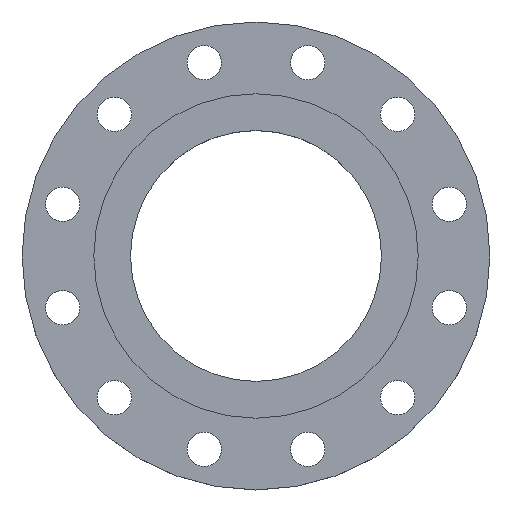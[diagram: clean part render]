
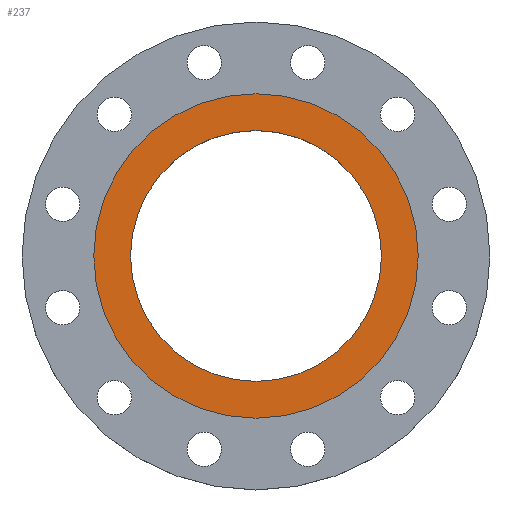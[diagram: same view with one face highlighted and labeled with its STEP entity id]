
A CAD part, top view. The second image highlights one B-rep face of the part: STEP entity #237.
In plain terms, the highlighted planar face has unit normal (0, 0, 1).
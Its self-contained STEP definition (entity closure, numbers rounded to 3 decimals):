
#85 = CARTESIAN_POINT ( 'NONE',  ( -120.67, 0., 0. ) ) ;
#108 = CIRCLE ( 'NONE', #1084, 120.67 ) ;
#124 = CIRCLE ( 'NONE', #127, 156. ) ;
#127 = AXIS2_PLACEMENT_3D ( 'NONE', #778, #777, #776 ) ;
#151 = EDGE_CURVE ( 'NONE', #1114, #1130, #124, .T. ) ;
#178 = CARTESIAN_POINT ( 'NONE',  ( -156., 0., 0. ) ) ;
#180 = CARTESIAN_POINT ( 'NONE',  ( 120.67, 0., 0. ) ) ;
#196 = CARTESIAN_POINT ( 'NONE',  ( 156., 0., 0. ) ) ;
#233 = DIRECTION ( 'NONE',  ( 1., 0., 0. ) ) ;
#234 = DIRECTION ( 'NONE',  ( 0., 0., 1. ) ) ;
#235 = CARTESIAN_POINT ( 'NONE',  ( 0., 0., 0. ) ) ;
#237 = ADVANCED_FACE ( 'NONE', ( #713, #712 ), #711, .T. ) ;
#239 = EDGE_CURVE ( 'NONE', #1130, #1114, #1153, .T. ) ;
#363 = DIRECTION ( 'NONE',  ( 1., 0., 0. ) ) ;
#365 = DIRECTION ( 'NONE',  ( 0., 0., 1. ) ) ;
#366 = CARTESIAN_POINT ( 'NONE',  ( 0., 0., 0. ) ) ;
#399 = AXIS2_PLACEMENT_3D ( 'NONE', #235, #234, #233 ) ;
#404 = CIRCLE ( 'NONE', #399, 120.67 ) ;
#701 = DIRECTION ( 'NONE',  ( -1., 0., 0. ) ) ;
#702 = DIRECTION ( 'NONE',  ( 0., 0., -1. ) ) ;
#703 = CARTESIAN_POINT ( 'NONE',  ( 0., 0., 0. ) ) ;
#705 = DIRECTION ( 'NONE',  ( 1., 0., 0. ) ) ;
#706 = DIRECTION ( 'NONE',  ( 0., 0., 1. ) ) ;
#707 = CARTESIAN_POINT ( 'NONE',  ( 0., 0., 0. ) ) ;
#711 = PLANE ( 'NONE',  #1151 ) ;
#712 = FACE_OUTER_BOUND ( 'NONE', #861, .T. ) ;
#713 = FACE_BOUND ( 'NONE', #1262, .T. ) ;
#776 = DIRECTION ( 'NONE',  ( -1., 0., 0. ) ) ;
#777 = DIRECTION ( 'NONE',  ( 0., 0., -1. ) ) ;
#778 = CARTESIAN_POINT ( 'NONE',  ( 0., 0., 0. ) ) ;
#861 = EDGE_LOOP ( 'NONE', ( #953, #954 ) ) ;
#884 = EDGE_CURVE ( 'NONE', #1195, #1128, #108, .T. ) ;
#951 = ORIENTED_EDGE ( 'NONE', *, *, #1100, .F. ) ;
#952 = ORIENTED_EDGE ( 'NONE', *, *, #884, .F. ) ;
#953 = ORIENTED_EDGE ( 'NONE', *, *, #239, .F. ) ;
#954 = ORIENTED_EDGE ( 'NONE', *, *, #151, .F. ) ;
#1084 = AXIS2_PLACEMENT_3D ( 'NONE', #366, #365, #363 ) ;
#1100 = EDGE_CURVE ( 'NONE', #1128, #1195, #404, .T. ) ;
#1114 = VERTEX_POINT ( 'NONE', #196 ) ;
#1128 = VERTEX_POINT ( 'NONE', #180 ) ;
#1130 = VERTEX_POINT ( 'NONE', #178 ) ;
#1151 = AXIS2_PLACEMENT_3D ( 'NONE', #707, #706, #705 ) ;
#1153 = CIRCLE ( 'NONE', #1164, 156. ) ;
#1164 = AXIS2_PLACEMENT_3D ( 'NONE', #703, #702, #701 ) ;
#1195 = VERTEX_POINT ( 'NONE', #85 ) ;
#1262 = EDGE_LOOP ( 'NONE', ( #951, #952 ) ) ;
